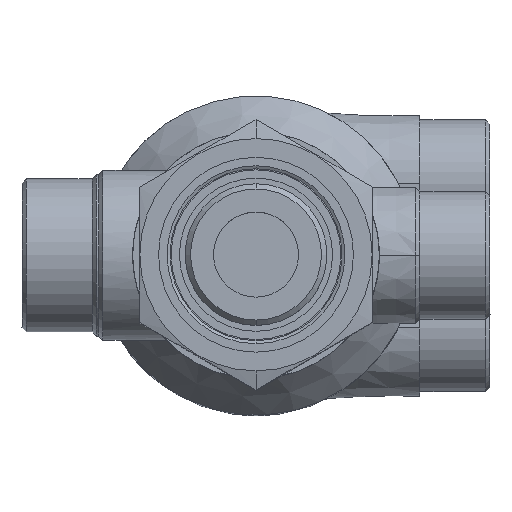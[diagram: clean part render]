
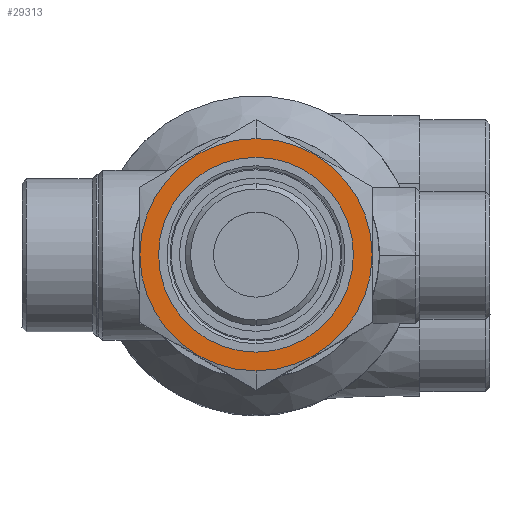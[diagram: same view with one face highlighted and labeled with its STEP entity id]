
A CAD part, top view. The second image highlights one B-rep face of the part: STEP entity #29313.
In plain terms, the highlighted planar face has unit normal (0, 0, 1).
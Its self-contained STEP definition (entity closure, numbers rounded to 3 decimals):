
#9363=CARTESIAN_POINT('',(0.,0.,189.05));
#9364=DIRECTION('',(0.,0.,1.));
#9365=DIRECTION('',(0.,1.,0.));
#9366=AXIS2_PLACEMENT_3D('',#9363,#9364,#9365);
#9371=CARTESIAN_POINT('',(0.,0.,189.05));
#9372=DIRECTION('',(0.,0.,1.));
#9373=DIRECTION('',(0.,-1.,0.));
#9374=AXIS2_PLACEMENT_3D('',#9371,#9372,#9373);
#9379=CARTESIAN_POINT('',(0.,0.,189.05));
#9380=DIRECTION('',(0.,0.,-1.));
#9381=DIRECTION('',(0.,-1.,0.));
#9382=AXIS2_PLACEMENT_3D('',#9379,#9380,#9381);
#9387=CARTESIAN_POINT('',(0.,0.,189.05));
#9388=DIRECTION('',(0.,0.,-1.));
#9389=DIRECTION('',(0.,1.,0.));
#9390=AXIS2_PLACEMENT_3D('',#9387,#9388,#9389);
#17780=CARTESIAN_POINT('',(0.,22.9,189.05));
#17782=VERTEX_POINT('',#17780);
#17785=CARTESIAN_POINT('',(0.,-22.9,189.05));
#17786=VERTEX_POINT('',#17785);
#17787=CARTESIAN_POINT('',(0.,-27.3,
189.05));
#17788=VERTEX_POINT('',#17787);
#17789=CARTESIAN_POINT('',(0.,27.3,189.05));
#17790=VERTEX_POINT('',#17789);
#29298=CARTESIAN_POINT('',(0.,0.,189.05));
#29299=DIRECTION('',(0.,0.,1.));
#29300=DIRECTION('',(0.,1.,0.));
#29301=AXIS2_PLACEMENT_3D('',#29298,#29299,#29300);
#29302=PLANE('',#29301);
#29303=ORIENTED_EDGE('',*,*,#29278,.F.);
#29304=ORIENTED_EDGE('',*,*,#29289,.F.);
#29305=EDGE_LOOP('',(#29303,#29304));
#29306=FACE_OUTER_BOUND('',#29305,.F.);
#29308=ORIENTED_EDGE('',*,*,#29307,.F.);
#29310=ORIENTED_EDGE('',*,*,#29309,.F.);
#29311=EDGE_LOOP('',(#29308,#29310));
#29312=FACE_BOUND('',#29311,.F.);
#9367=CIRCLE('',#9366,27.3);
#9375=CIRCLE('',#9374,27.3);
#9383=CIRCLE('',#9382,22.9);
#9391=CIRCLE('',#9390,22.9);
#29278=EDGE_CURVE('',#17790,#17788,#9367,.T.);
#29289=EDGE_CURVE('',#17788,#17790,#9375,.T.);
#29307=EDGE_CURVE('',#17786,#17782,#9383,.T.);
#29309=EDGE_CURVE('',#17782,#17786,#9391,.T.);
#29313=ADVANCED_FACE('',(#29306,#29312),#29302,.T.);
